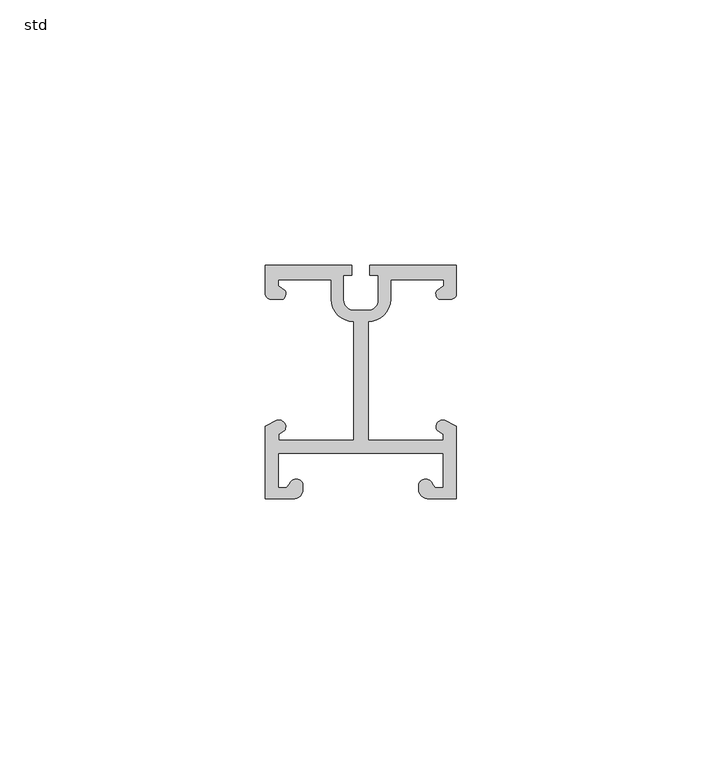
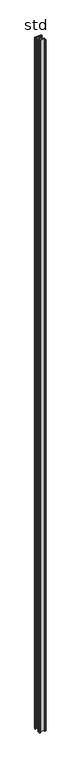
"""IFC4 building model written with IfcOpenShell, lengths in millimetres: column geometry, NLRS_21_COL_drager ST.0440_Storax : std."""

from ifc_helpers import new_model, si_unit, point, frame_2d, origin, origin_with_axes, place, context, project, spatial, polyline, circle_curve, trimmed, segment, composite_curve, outline, extrude, source, transform, mapped, element, save


def std_518c84ec(model_context):
    return source(origin(), model_context, "Body", "SweptSolid", [
        extrude(outline(composite_curve([segment(polyline([(-18.0, -6.3052023), (-18.0, -1.0), (-1.7007911, -1.0), (-1.7007911, -2.8614608), (-3.3098873, -2.8614608), (-3.3098873, -7.4387929)]), True, "CONTINUOUS"), segment(trimmed(circle_curve(frame_2d((-1.2477445, -7.4387929)), 2.0621428), [point((-3.3098873, -7.4387929))], [point((-1.2477445, -9.5009356))], True, "CARTESIAN"), True, "CONTINUOUS"), segment(polyline([(-1.2477445, -9.5009356), (1.2477445, -9.5009356)]), True, "CONTINUOUS"), segment(trimmed(circle_curve(frame_2d((1.2477445, -7.4387929)), 2.0621428), [point((1.2477445, -9.5009356))], [point((3.3098873, -7.4387929))], True, "CARTESIAN"), True, "CONTINUOUS"), segment(polyline([(3.3098873, -7.4387929), (3.3098873, -2.8614608), (1.7007911, -2.8614608), (1.7007911, -1.0), (18.0, -1.0), (18.0, -6.3052023)]), True, "CONTINUOUS"), segment(trimmed(circle_curve(frame_2d((16.9392812, -6.3052023)), 1.0607188), [point((18.0, -6.3052023))], [point((16.9392812, -7.3659211))], False, "CARTESIAN"), True, "CONTINUOUS"), segment(polyline([(16.9392812, -7.3659211), (14.6710832, -7.3659211)]), True, "CONTINUOUS"), segment(trimmed(circle_curve(frame_2d((15.4763893, -6.2941519)), 1.3405996), [point((14.6710832, -7.3659211))], [point((14.2430891, -5.7686256))], False, "CARTESIAN"), True, "CONTINUOUS"), segment(polyline([(14.2430891, -5.7686256), (15.5853554, -4.7934121), (15.5853554, -3.7019722), (5.5853554, -3.7019722), (5.5853554, -7.3659211)]), True, "CONTINUOUS"), segment(trimmed(circle_curve(frame_2d((1.3429061, -7.3659211)), 4.2424493), [point((5.5853554, -7.3659211))], [point((1.3429061, -11.6083704))], False, "CARTESIAN"), True, "CONTINUOUS"), segment(polyline([(1.3429061, -11.6083704), (1.3429061, -33.9484561), (15.4786691, -33.9484561), (15.4786691, -32.7842379), (14.4373991, -32.1830604)]), True, "CONTINUOUS"), segment(trimmed(circle_curve(frame_2d((15.45859, -31.4212831)), 1.2740234), [point((14.4373991, -32.1830604))], [point((15.8206583, -30.1997913))], False, "CARTESIAN"), True, "CONTINUOUS"), segment(polyline([(15.8206583, -30.1997913), (18.0, -31.2742706), (18.0, -45.0), (12.4869164, -45.0)]), True, "CONTINUOUS"), segment(trimmed(circle_curve(frame_2d((12.9265254, -42.8995012)), 2.1460082), [point((12.4869164, -45.0))], [point((10.9194758, -43.6591742))], False, "CARTESIAN"), True, "CONTINUOUS"), segment(polyline([(10.9194758, -43.6591742), (10.9194758, -42.1270559)]), True, "CONTINUOUS"), segment(trimmed(circle_curve(frame_2d((12.1860343, -42.6211046)), 1.3595053), [point((10.9194758, -42.1270559))], [point((13.4525929, -42.1270559))], False, "CARTESIAN"), True, "CONTINUOUS"), segment(polyline([(13.4525929, -42.1270559), (14.0397402, -42.8785701), (15.5328091, -42.8785701), (15.5328091, -36.3732865), (-15.5328091, -36.3732865), (-15.5328091, -42.8785701), (-14.0397402, -42.8785701), (-13.4525929, -42.1270559)]), True, "CONTINUOUS"), segment(trimmed(circle_curve(frame_2d((-12.1860343, -42.6211046)), 1.3595053), [point((-13.4525929, -42.1270559))], [point((-10.9194758, -42.1270559))], False, "CARTESIAN"), True, "CONTINUOUS"), segment(polyline([(-10.9194758, -42.1270559), (-10.9194758, -43.6591742)]), True, "CONTINUOUS"), segment(trimmed(circle_curve(frame_2d((-12.9265254, -42.8995012)), 2.1460082), [point((-10.9194758, -43.6591742))], [point((-12.4869164, -45.0))], False, "CARTESIAN"), True, "CONTINUOUS"), segment(polyline([(-12.4869164, -45.0), (-18.0, -45.0), (-18.0, -31.2742706), (-15.8206583, -30.1997913)]), True, "CONTINUOUS"), segment(trimmed(circle_curve(frame_2d((-15.45859, -31.4212831)), 1.2740234), [point((-15.8206583, -30.1997913))], [point((-14.4373991, -32.1830604))], False, "CARTESIAN"), True, "CONTINUOUS"), segment(polyline([(-14.4373991, -32.1830604), (-15.4786691, -32.7842379), (-15.4786691, -33.9484561), (-1.3429061, -33.9484561), (-1.3429061, -11.6083704)]), True, "CONTINUOUS"), segment(trimmed(circle_curve(frame_2d((-1.3429061, -7.3659211)), 4.2424493), [point((-1.3429061, -11.6083704))], [point((-5.5853554, -7.3659211))], False, "CARTESIAN"), True, "CONTINUOUS"), segment(polyline([(-5.5853554, -7.3659211), (-5.5853554, -3.7019722), (-15.5853554, -3.7019722), (-15.5853554, -4.7934121), (-14.2430891, -5.7686256)]), True, "CONTINUOUS"), segment(trimmed(circle_curve(frame_2d((-15.4763893, -6.2941519)), 1.3405996), [point((-14.2430891, -5.7686256))], [point((-14.6710832, -7.3659211))], False, "CARTESIAN"), True, "CONTINUOUS"), segment(polyline([(-14.6710832, -7.3659211), (-16.9392812, -7.3659211)]), True, "CONTINUOUS"), segment(trimmed(circle_curve(frame_2d((-16.9392812, -6.3052023)), 1.0607188), [point((-16.9392812, -7.3659211))], [point((-18.0, -6.3052023))], False, "CARTESIAN"), True, "CONTINUOUS")], self_intersect=False)), origin_with_axes(), (0.0, 0.0, 1.0), 4000.0),
    ])


if __name__ == "__main__":
    model = new_model("IFC4")
    model_context = context("Model", 3, world=origin())
    ifc_project = project(units=[si_unit("LENGTHUNIT", "METRE", prefix="MILLI")], contexts=[model_context])
    site = spatial("IfcSite", under=ifc_project)
    building = spatial("IfcBuilding", under=site)
    placement = place(None, origin())
    std_shape = std_518c84ec(model_context)
    element("IfcColumn", 1, ObjectType="NLRS_21_COL_drager ST.0440_Storax : std", at=placement, inside=building, context=model_context, shape_type="MappedRepresentation", body=[
        mapped(std_shape, transform((0.0, 0.0, 0.0), x_axis=(1.0, 0.0, 0.0), y_axis=(0.0, 1.0, 0.0), z_axis=(0.0, 0.0, 1.0))),
    ])
    save(model, "model.ifc")
